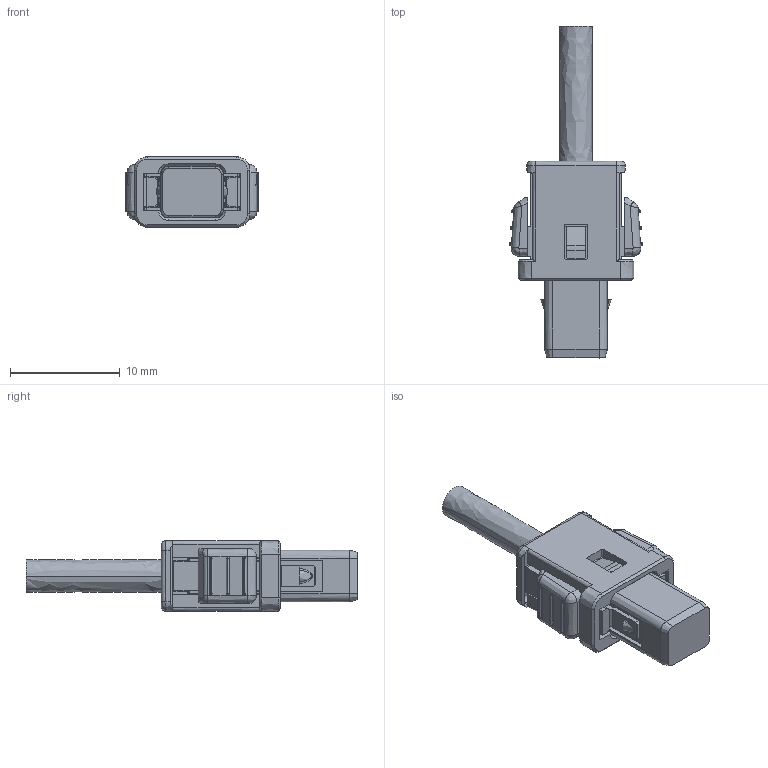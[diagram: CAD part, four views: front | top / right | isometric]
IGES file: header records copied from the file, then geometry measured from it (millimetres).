
Start section:  PTC IGES file: crc9001-4402f.igs
Global section: file name: crc9001-4402f.igs; native system: Pro/ENGINEER by Parametric Technology Corporation; preprocessor: 2011220; author: en-yo; organization: Unknown; date: 20131107.134504; units: millimetre
Bounding box: 12.15 x 30.2 x 6.4 mm (x, y, z)
Volume: 865.6 mm3; surface area: 1352.6 mm2
Topology: 1 solids, 1 shells, 474 faces, 1245 edges, 780 vertices
Faces by surface type: bspline 474
